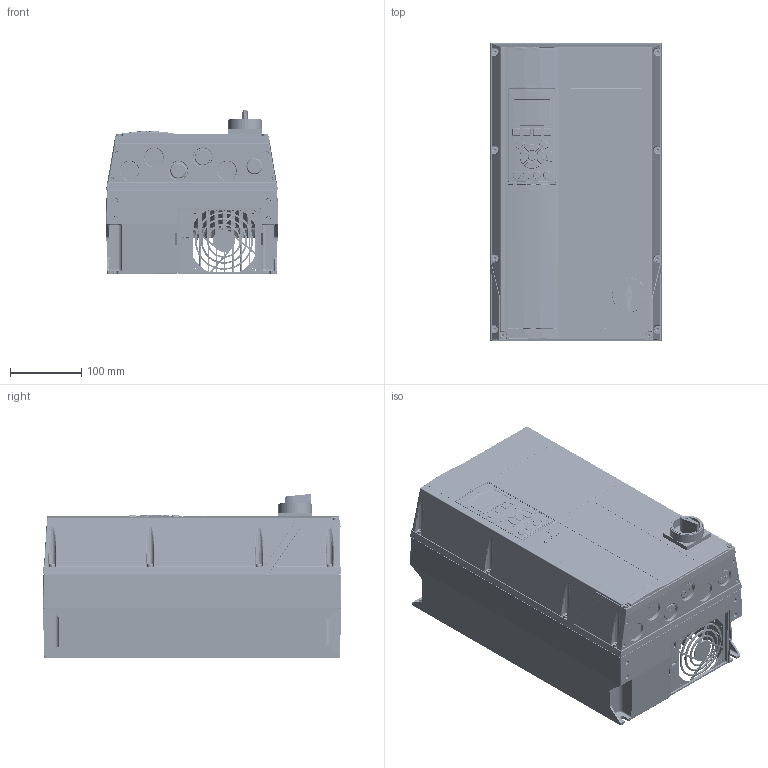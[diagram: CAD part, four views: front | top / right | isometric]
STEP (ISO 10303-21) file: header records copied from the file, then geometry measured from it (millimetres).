
FILE_DESCRIPTION((''),'2;1');
FILE_NAME('DANFOSS-FC-300-A5-SWITCH','2011-10-20T',('cstephenkumar'),('Be-Atch INC. 1993'),'PRO/ENGINEER BY PARAMETRIC TECHNOLOGY CORPORATION, 2009360','PRO/ENGINEER BY PARAMETRIC TECHNOLOGY CORPORATION, 2009360','');
FILE_SCHEMA(('AUTOMOTIVE_DESIGN { 1 0 10303 214 1 1 1 1 }'));
Products named in the file (1): DANFOSS-FC-300-A5-SWITCH
Bounding box: 242 x 420.2 x 231.3 mm (x, y, z)
Volume: 13702706 mm3; surface area: 1525293.9 mm2
Topology: 1 solids, 40 shells, 7182 faces, 18242 edges, 11253 vertices
Faces by surface type: plane 2591, cylinder 1958, bspline 1770, torus 299, cone 268, sphere 169, extrusion 127
Entity records: 395404 total; most frequent: CARTESIAN_POINT 236072, ORIENTED_EDGE 36440, DIRECTION 27732, EDGE_CURVE 18220, VERTEX_POINT 11253, AXIS2_PLACEMENT_3D 9433, VECTOR 8866, LINE 8739
